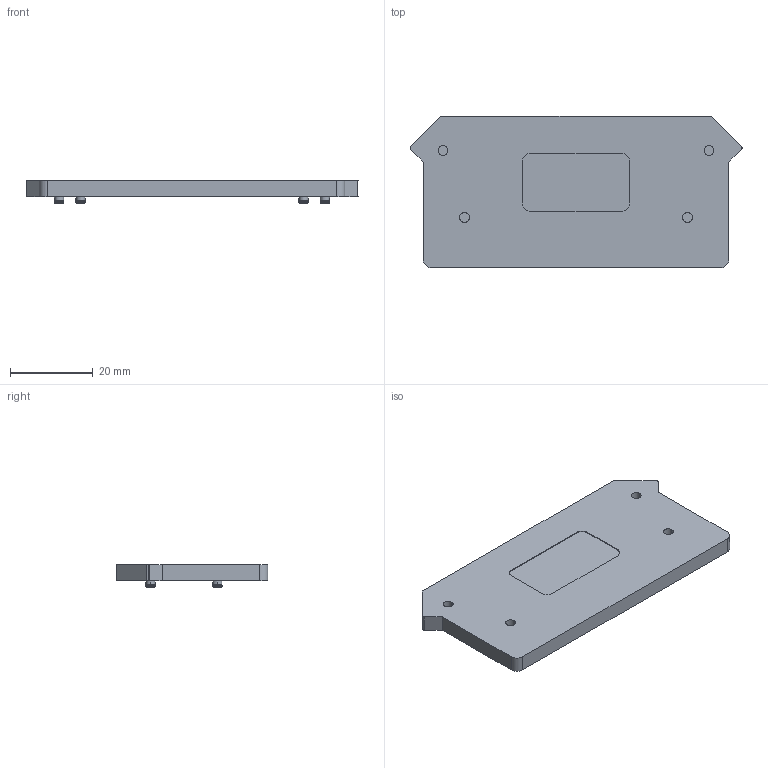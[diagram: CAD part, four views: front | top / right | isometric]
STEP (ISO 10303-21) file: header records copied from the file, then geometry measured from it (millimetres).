
FILE_DESCRIPTION (( 'STEP AP203' ), '1' );
FILE_NAME ('牮赅 阎褪.757537.077.STEP', '2021-10-06T06:07:56', ( '' ), ( '' ), 'SwSTEP 2.0', 'SolidWorks 2016', '' );
FILE_SCHEMA (( 'CONFIG_CONTROL_DESIGN' ));
Length unit declared in the file: millimetre
Products named in the file (1): 牮赅 阎褪.757537.077
Bounding box: 80.4 x 36.7 x 5.4 mm (x, y, z)
Volume: 6465.8 mm3; surface area: 7412.6 mm2
Topology: 1 solids, 1 shells, 137 faces, 336 edges, 216 vertices
Faces by surface type: plane 80, cylinder 39, cone 16, bspline 2
Entity records: 4149 total; most frequent: CARTESIAN_POINT 772, DIRECTION 690, ORIENTED_EDGE 672, EDGE_CURVE 336, LINE 246, VECTOR 246, AXIS2_PLACEMENT_3D 222, VERTEX_POINT 216
